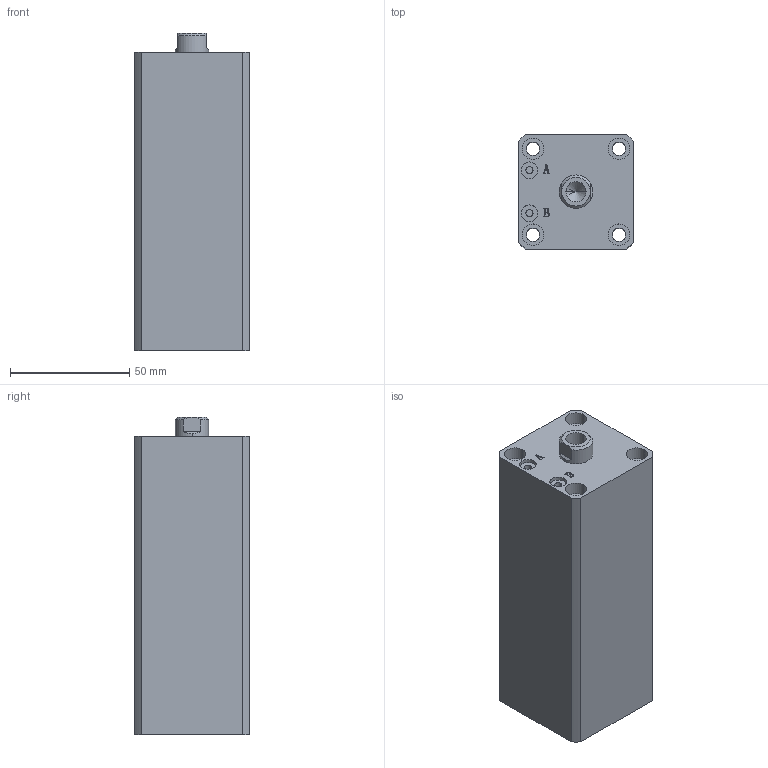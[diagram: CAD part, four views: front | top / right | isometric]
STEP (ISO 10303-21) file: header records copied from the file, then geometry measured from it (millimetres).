
FILE_DESCRIPTION (( 'STEP AP203' ), '1' );
FILE_NAME ('HTB-SDMA25-80N.STEP', '2019-10-07T11:12:32', ( '微软用户' ), ( '微软中国' ), 'SwSTEP 2.0', 'SolidWorks 2012', '' );
FILE_SCHEMA (( 'CONFIG_CONTROL_DESIGN' ));
Length unit declared in the file: millimetre
Products named in the file (3): HTB-SDMA25-80N; HTB-SDMA25-80N活塞杆; HTB-SDMA25-80掛极
Assembly tree (2 placements, depth 2):
  HTB-SDMA25-80N
    HTB-SDMA25-80掛极
    HTB-SDMA25-80N活塞杆
Bounding box: 48 x 48 x 133 mm (x, y, z)
Volume: 244910.4 mm3; surface area: 53655.8 mm2
Topology: 2 solids, 2 shells, 137 faces, 329 edges, 215 vertices
Faces by surface type: plane 65, cylinder 46, bspline 16, torus 6, cone 4
Entity records: 5072 total; most frequent: CARTESIAN_POINT 1592, ORIENTED_EDGE 654, DIRECTION 645, EDGE_CURVE 327, AXIS2_PLACEMENT_3D 232, VERTEX_POINT 215, VECTOR 181, LINE 181
